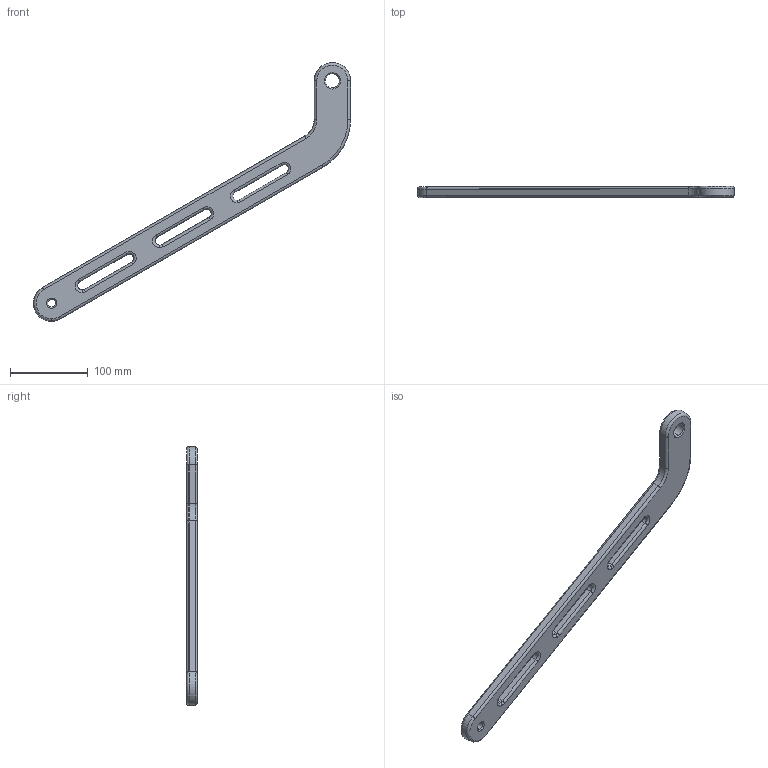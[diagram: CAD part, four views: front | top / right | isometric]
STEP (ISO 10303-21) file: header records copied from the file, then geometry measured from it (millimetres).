
FILE_DESCRIPTION (( 'STEP AP214' ), '1' );
FILE_NAME ('10119V000_90058_Torarm_L389mm_Index_4.STEP', '2014-07-22T14:08:35', ( 'Admin' ), ( '' ), 'SwSTEP 2.0', 'SolidWorks 2014', '' );
FILE_SCHEMA (( 'AUTOMOTIVE_DESIGN' ));
Length unit declared in the file: millimetre
Products named in the file (1): 10119V000_90058_Torarm_L389mm_Index_4
Bounding box: 407.42 x 14 x 332.44 mm (x, y, z)
Volume: 292333.7 mm3; surface area: 62738.1 mm2
Topology: 1 solids, 1 shells, 181 faces, 439 edges, 272 vertices
Faces by surface type: bspline 58, cylinder 37, torus 35, plane 32, cone 19
Entity records: 8758 total; most frequent: CARTESIAN_POINT 4751, ORIENTED_EDGE 878, DIRECTION 726, EDGE_CURVE 439, AXIS2_PLACEMENT_3D 279, VERTEX_POINT 272, EDGE_LOOP 203, FACE_OUTER_BOUND 181
